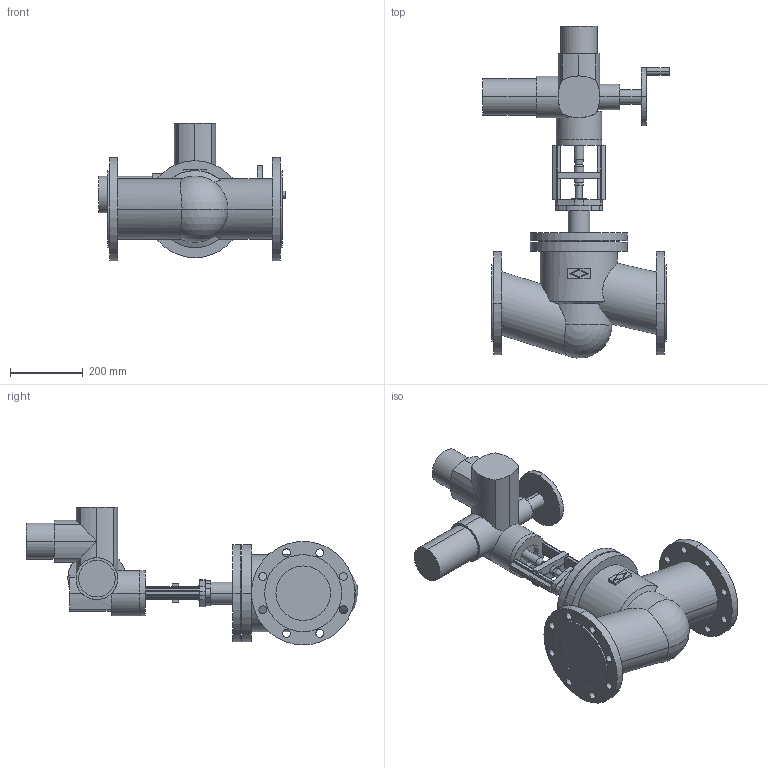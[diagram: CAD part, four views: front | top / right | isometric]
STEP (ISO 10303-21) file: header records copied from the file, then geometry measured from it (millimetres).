
FILE_DESCRIPTION(('OneSpaceDesigner STEP Export'),'2;1');
FILE_NAME('c000003089.stp','2007-01-09T10:43:41',(''),(''),'OneSpace Designer STEP processor for AP214 (Solid Model)','OneSpace Designer 14.00B 27-May-2006 (C) CoCreate Software GmbH','');
FILE_SCHEMA(('AUTOMOTIVE_DESIGN { 1 0 10303 214 1 1 1 1 }'));
Length unit declared in the file: millimetre
Products named in the file (3): 1; 2; 3
Bounding box: 514 x 913.77 x 379.5 mm (x, y, z)
Volume: 28581624.1 mm3; surface area: 1220889.8 mm2
Topology: 3 solids, 3 shells, 280 faces, 714 edges, 453 vertices
Faces by surface type: cylinder 144, plane 128, cone 6, sphere 2
Entity records: 8298 total; most frequent: CARTESIAN_POINT 1925, ORIENTED_EDGE 1424, DIRECTION 1177, EDGE_CURVE 712, VERTEX_POINT 453, AXIS2_PLACEMENT_3D 402, VECTOR 373, LINE 373
